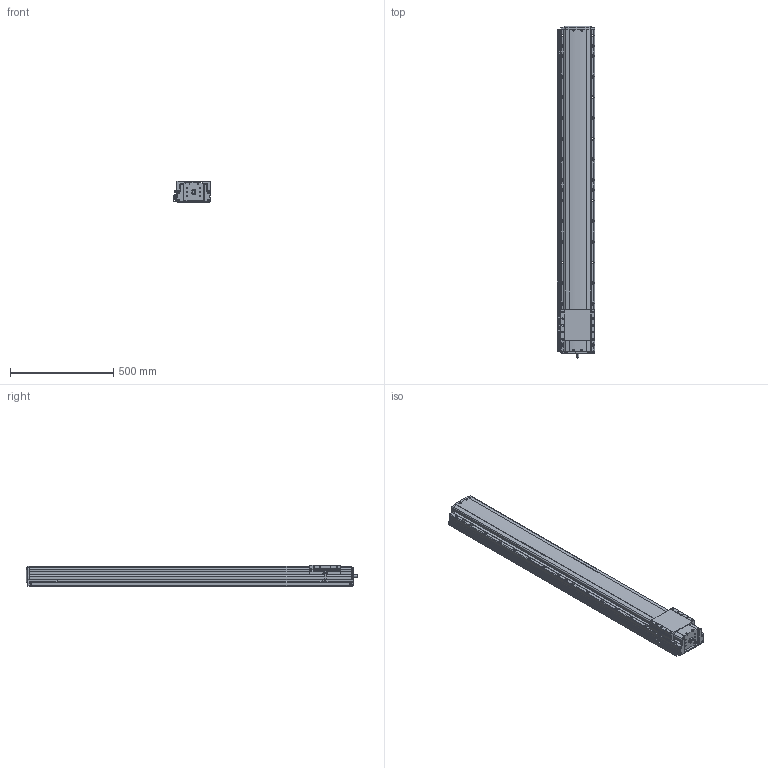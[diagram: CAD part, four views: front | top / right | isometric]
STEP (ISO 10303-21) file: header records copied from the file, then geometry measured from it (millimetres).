
FILE_DESCRIPTION(('STEP AP214'),'1');
FILE_NAME('Z:/Web/3D/PSA165/STP/PSA165-1300 (3D)/PSA165ㅁㅁ-1300+3SL.stp','2014-06-24T10:34:42',(' '),(' '),'Spatial InterOp 3D',' ',' ');
FILE_SCHEMA(('automotive_design'));
Length unit declared in the file: millimetre
Products named in the file (36): 스크루 : Round - M4.0 x 12.0; RRCV-PA160; BASE; 스크루 : Round - M4.0 x 10.0; RN15; Screw 20; SLIDE; FRCV; M3.0 x 6.0; SRL-16x17-360L; SGD-SAN150; EE-SX674; SBK-SX674-352; 스크루 : Round - M3.0 x 6.0; BHCS M4.0 x 10.0
Bounding box: 181 x 1608.8 x 104 mm (x, y, z)
Volume: 21752677.7 mm3; surface area: 1450291.1 mm2
Topology: 36 solids, 36 shells, 2568 faces, 6929 edges, 4445 vertices
Faces by surface type: plane 1431, cylinder 819, cone 225, sphere 52, bspline 25, torus 16
Entity records: 104742 total; most frequent: CARTESIAN_POINT 18440, DIRECTION 13709, ORIENTED_EDGE 13542, EDGE_CURVE 6771, AXIS2_PLACEMENT_3D 4608, LINE 4493, VECTOR 4493, VERTEX_POINT 4445
